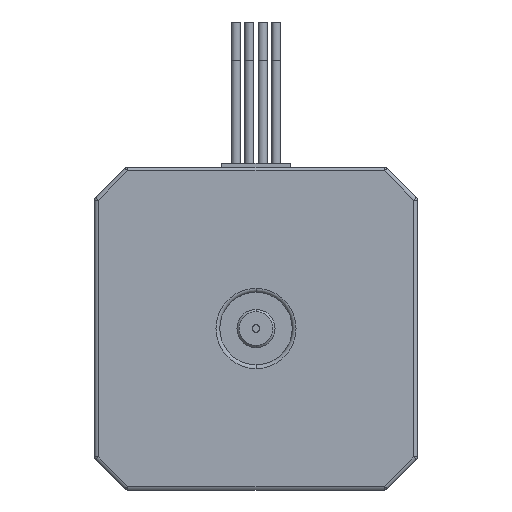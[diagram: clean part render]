
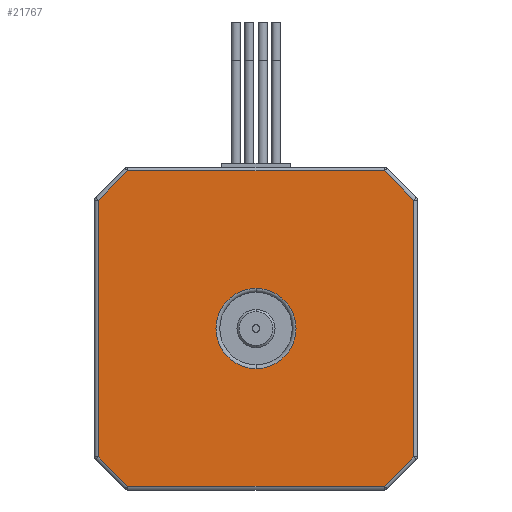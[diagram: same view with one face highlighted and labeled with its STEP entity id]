
A CAD part, front view. The second image highlights one B-rep face of the part: STEP entity #21767.
In plain terms, the highlighted planar face has unit normal (0, -1, 0).
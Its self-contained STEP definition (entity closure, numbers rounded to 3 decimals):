
#229 = VECTOR ( 'NONE', #15211, 1000. ) ;
#389 = AXIS2_PLACEMENT_3D ( 'NONE', #7383, #11511, #18592 ) ;
#567 = VERTEX_POINT ( 'NONE', #3909 ) ;
#2021 = CARTESIAN_POINT ( 'NONE',  ( 0., 0., 20.65 ) ) ;
#2103 = LINE ( 'NONE', #4442, #3061 ) ;
#2222 = DIRECTION ( 'NONE',  ( 0., 0., 1. ) ) ;
#2741 = CARTESIAN_POINT ( 'NONE',  ( 20.65, 0., 16.827 ) ) ;
#2937 = DIRECTION ( 'NONE',  ( 0., 0., 1. ) ) ;
#3061 = VECTOR ( 'NONE', #2222, 1000. ) ;
#3066 = VECTOR ( 'NONE', #15043, 1000. ) ;
#3417 = DIRECTION ( 'NONE',  ( 0.707, 0., -0.707 ) ) ;
#3909 = CARTESIAN_POINT ( 'NONE',  ( 0., 0., -5.25 ) ) ;
#4051 = EDGE_CURVE ( 'NONE', #7924, #6668, #19625, .T. ) ;
#4214 = CARTESIAN_POINT ( 'NONE',  ( 20.65, 0., -16.827 ) ) ;
#4295 = DIRECTION ( 'NONE',  ( 0., 1., 0. ) ) ;
#4442 = CARTESIAN_POINT ( 'NONE',  ( 20.65, 0., 17.034 ) ) ;
#4781 = DIRECTION ( 'NONE',  ( -0.707, 0., -0.707 ) ) ;
#4970 = VERTEX_POINT ( 'NONE', #6111 ) ;
#4985 = ORIENTED_EDGE ( 'NONE', *, *, #8152, .T. ) ;
#5006 = LINE ( 'NONE', #21637, #5049 ) ;
#5049 = VECTOR ( 'NONE', #4781, 1000. ) ;
#5147 = CARTESIAN_POINT ( 'NONE',  ( -16.68, 0., -20.796 ) ) ;
#5228 = LINE ( 'NONE', #23818, #9872 ) ;
#5400 = FACE_OUTER_BOUND ( 'NONE', #19555, .T. ) ;
#6093 = AXIS2_PLACEMENT_3D ( 'NONE', #16480, #19920, #2937 ) ;
#6111 = CARTESIAN_POINT ( 'NONE',  ( 0., 0., 5.25 ) ) ;
#6291 = EDGE_CURVE ( 'NONE', #21114, #22562, #11564, .T. ) ;
#6327 = VERTEX_POINT ( 'NONE', #24239 ) ;
#6503 = EDGE_CURVE ( 'NONE', #17070, #12877, #2103, .T. ) ;
#6668 = VERTEX_POINT ( 'NONE', #11353 ) ;
#7383 = CARTESIAN_POINT ( 'NONE',  ( 0., 0., 0. ) ) ;
#7395 = CARTESIAN_POINT ( 'NONE',  ( -20.65, 0., 0. ) ) ;
#7652 = FACE_BOUND ( 'NONE', #14855, .T. ) ;
#7879 = ORIENTED_EDGE ( 'NONE', *, *, #19814, .T. ) ;
#7882 = EDGE_CURVE ( 'NONE', #22562, #6327, #5006, .T. ) ;
#7924 = VERTEX_POINT ( 'NONE', #10260 ) ;
#8152 = EDGE_CURVE ( 'NONE', #12877, #21114, #5228, .T. ) ;
#8319 = CARTESIAN_POINT ( 'NONE',  ( 17.034, 0., -20.65 ) ) ;
#9763 = PLANE ( 'NONE',  #389 ) ;
#9872 = VECTOR ( 'NONE', #22315, 1000. ) ;
#9955 = DIRECTION ( 'NONE',  ( -1., 0., 0. ) ) ;
#10260 = CARTESIAN_POINT ( 'NONE',  ( -16.827, 0., -20.65 ) ) ;
#11353 = CARTESIAN_POINT ( 'NONE',  ( 16.827, 0., -20.65 ) ) ;
#11450 = ORIENTED_EDGE ( 'NONE', *, *, #6503, .T. ) ;
#11511 = DIRECTION ( 'NONE',  ( 0., 1., 0. ) ) ;
#11564 = LINE ( 'NONE', #2021, #23490 ) ;
#11907 = EDGE_CURVE ( 'NONE', #4970, #567, #18665, .T. ) ;
#12877 = VERTEX_POINT ( 'NONE', #2741 ) ;
#13274 = CARTESIAN_POINT ( 'NONE',  ( 20.796, 0., -16.68 ) ) ;
#13631 = AXIS2_PLACEMENT_3D ( 'NONE', #21138, #4295, #19336 ) ;
#14671 = CARTESIAN_POINT ( 'NONE',  ( -16.827, 0., 20.65 ) ) ;
#14697 = EDGE_CURVE ( 'NONE', #567, #4970, #21857, .T. ) ;
#14855 = EDGE_LOOP ( 'NONE', ( #21776, #21660 ) ) ;
#15033 = CARTESIAN_POINT ( 'NONE',  ( -20.65, 0., -16.827 ) ) ;
#15043 = DIRECTION ( 'NONE',  ( 0., 0., -1. ) ) ;
#15211 = DIRECTION ( 'NONE',  ( 0.707, 0., 0.707 ) ) ;
#15426 = DIRECTION ( 'NONE',  ( 1., 0., 0. ) ) ;
#16356 = LINE ( 'NONE', #5147, #19716 ) ;
#16480 = CARTESIAN_POINT ( 'NONE',  ( 0., 0., 0. ) ) ;
#16736 = ORIENTED_EDGE ( 'NONE', *, *, #19238, .T. ) ;
#16900 = ORIENTED_EDGE ( 'NONE', *, *, #6291, .T. ) ;
#17070 = VERTEX_POINT ( 'NONE', #4214 ) ;
#17091 = LINE ( 'NONE', #13274, #229 ) ;
#18592 = DIRECTION ( 'NONE',  ( 0., 0., 1. ) ) ;
#18665 = CIRCLE ( 'NONE', #6093, 5.25 ) ;
#19238 = EDGE_CURVE ( 'NONE', #6668, #17070, #17091, .T. ) ;
#19336 = DIRECTION ( 'NONE',  ( 0., 0., 1. ) ) ;
#19413 = ORIENTED_EDGE ( 'NONE', *, *, #4051, .T. ) ;
#19555 = EDGE_LOOP ( 'NONE', ( #4985, #16900, #23779, #7879, #22599, #19413, #16736, #11450 ) ) ;
#19625 = LINE ( 'NONE', #8319, #20156 ) ;
#19716 = VECTOR ( 'NONE', #3417, 1000. ) ;
#19814 = EDGE_CURVE ( 'NONE', #6327, #21765, #24367, .T. ) ;
#19920 = DIRECTION ( 'NONE',  ( 0., 1., 0. ) ) ;
#20156 = VECTOR ( 'NONE', #15426, 1000. ) ;
#21114 = VERTEX_POINT ( 'NONE', #22702 ) ;
#21138 = CARTESIAN_POINT ( 'NONE',  ( 0., 0., 0. ) ) ;
#21637 = CARTESIAN_POINT ( 'NONE',  ( -20.796, 0., 16.68 ) ) ;
#21660 = ORIENTED_EDGE ( 'NONE', *, *, #14697, .T. ) ;
#21765 = VERTEX_POINT ( 'NONE', #15033 ) ;
#21767 = ADVANCED_FACE ( 'NONE', ( #5400, #7652 ), #9763, .F. ) ;
#21776 = ORIENTED_EDGE ( 'NONE', *, *, #11907, .T. ) ;
#21857 = CIRCLE ( 'NONE', #13631, 5.25 ) ;
#22315 = DIRECTION ( 'NONE',  ( -0.707, 0., 0.707 ) ) ;
#22562 = VERTEX_POINT ( 'NONE', #14671 ) ;
#22599 = ORIENTED_EDGE ( 'NONE', *, *, #22875, .T. ) ;
#22702 = CARTESIAN_POINT ( 'NONE',  ( 16.827, 0., 20.65 ) ) ;
#22875 = EDGE_CURVE ( 'NONE', #21765, #7924, #16356, .T. ) ;
#23490 = VECTOR ( 'NONE', #9955, 1000. ) ;
#23779 = ORIENTED_EDGE ( 'NONE', *, *, #7882, .T. ) ;
#23818 = CARTESIAN_POINT ( 'NONE',  ( 16.68, 0., 20.796 ) ) ;
#24239 = CARTESIAN_POINT ( 'NONE',  ( -20.65, 0., 16.827 ) ) ;
#24367 = LINE ( 'NONE', #7395, #3066 ) ;
